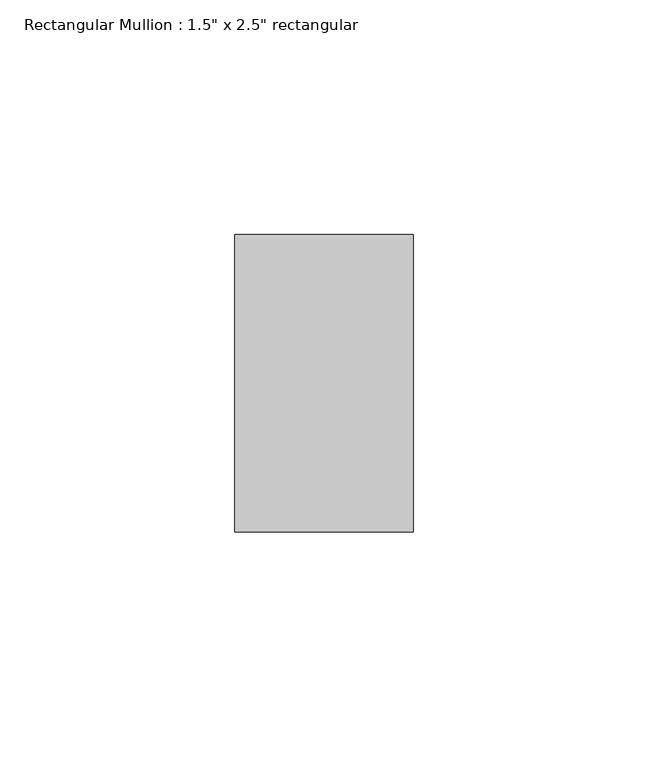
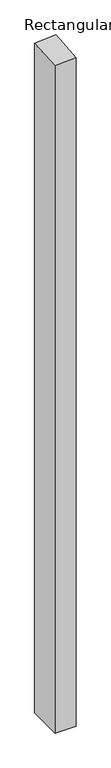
"""IFC4 building model written with IfcOpenShell, lengths in millimetres: member geometry."""

import ifcopenshell
import ifcopenshell.guid

model = None  # the IFC model being written
_history = None  # IfcOwnerHistory: only IFC2X3 demands one
_inside = {}  # id of a spatial element -> (the spatial element, [elements in it])
_under = {}  # id of a project, library or spatial element -> (it, [spatial elements below it])
_declared = {}  # id of a project -> (the project, [libraries it declares])
_typed = {}  # id of a type object -> (the type object, [elements of that type])
_made_of = {}  # id of a material, layer set ... -> (it, [elements and type objects made of it])


def new_model(schema):
    """Start an empty IFC model of exactly this schema.

    Asked for "IFC4X3", IfcOpenShell would pick the latest addendum, in which some entities
    have other attributes; the version numbers below select the first issue.
    IFC2X3 requires an IfcOwnerHistory on every rooted entity: one is made here for all.
    """
    global model, _history
    if schema == "IFC4X3":
        model = ifcopenshell.file(schema_version=(4, 3, 0, 0))
    else:
        model = ifcopenshell.file(schema=schema)
    _inside.clear()
    _under.clear()
    _declared.clear()
    _typed.clear()
    _made_of.clear()
    _history = None
    if model.schema == "IFC2X3":
        org = make("IfcOrganization", Name="unknown")
        user = make(
            "IfcPersonAndOrganization",
            ThePerson=make("IfcPerson", FamilyName="unknown"),
            TheOrganization=org,
        )
        app = make(
            "IfcApplication",
            ApplicationDeveloper=org,
            Version="unknown",
            ApplicationFullName="unknown",
            ApplicationIdentifier="unknown",
        )
        _history = make(
            "IfcOwnerHistory",
            OwningUser=user,
            OwningApplication=app,
            ChangeAction="ADDED",
            CreationDate=0,
        )
    return model


def make(cls, **values):
    """One entity of the class cls with the attributes given. An attribute that is None is left unset."""
    return model.create_entity(
        cls, **{name: value for name, value in values.items() if value is not None}
    )


def rooted(cls, **values):
    """An entity with a GlobalId (a new one), such as an element, a storey or a relation."""
    return make(cls, GlobalId=ifcopenshell.guid.new(), OwnerHistory=_history, **values)


def si_unit(unit_type, name, prefix=None):
    """IfcSIUnit, for example si_unit("LENGTHUNIT", "METRE", prefix="MILLI")."""
    return make("IfcSIUnit", UnitType=unit_type, Prefix=prefix, Name=name)


def assignment(units):
    """IfcUnitAssignment: the units of a project."""
    return None if units is None else make("IfcUnitAssignment", Units=units)


def point(xyz):
    """IfcCartesianPoint."""
    return None if xyz is None else make("IfcCartesianPoint", Coordinates=xyz)


def direction(xyz):
    """IfcDirection."""
    return None if xyz is None else make("IfcDirection", DirectionRatios=xyz)


def frame(location, z_axis=None, x_axis=None):
    """IfcAxis2Placement3D, a coordinate frame: its origin and axes. An axis left out is left unset."""
    return make(
        "IfcAxis2Placement3D",
        Location=point(location),
        Axis=direction(z_axis),
        RefDirection=direction(x_axis),
    )


def origin():
    """The frame at (0, 0, 0) with its axes left unset."""
    return frame((0.0, 0.0, 0.0))


def place(relative_to, where):
    """IfcLocalPlacement: puts the frame where relative to a parent placement (None: the world)."""
    return make(
        "IfcLocalPlacement", PlacementRelTo=relative_to, RelativePlacement=where
    )


def context(
    kind, dimensions, precision=None, world=None, true_north=None, identifier=None
):
    """IfcGeometricRepresentationContext, for example the 3D "Model" context."""
    return make(
        "IfcGeometricRepresentationContext",
        ContextIdentifier=identifier,
        ContextType=kind,
        CoordinateSpaceDimension=dimensions,
        Precision=precision,
        WorldCoordinateSystem=world,
        TrueNorth=true_north,
    )


def project(units=None, contexts=None):
    """IfcProject with its units and contexts."""
    return rooted(
        "IfcProject",
        Name="project",
        RepresentationContexts=contexts,
        UnitsInContext=assignment(units),
    )


def spatial(cls, under=None, at=None, **own):
    """A site, building, storey or space (cls), placed at a placement, below another one or the project."""
    s = rooted(cls, ObjectPlacement=at, **own)
    if under is not None:
        _under.setdefault(under.id(), (under, []))[1].append(s)
    return s


def faces_of(points, faces, orient=None, outer=None):
    """IfcFace entities. A face is a list of loops; a loop is a list of indices into points, from 0.

    orient and outer hold one flag for each loop. By default every Orientation is true, the
    first loop of a face is its IfcFaceOuterBound and the others are IfcFaceBound.
    """
    made = []
    for i, loops in enumerate(faces):
        bounds = []
        for j, loop in enumerate(loops):
            is_outer = j == 0 if outer is None else outer[i][j]
            bounds.append(
                make(
                    "IfcFaceOuterBound" if is_outer else "IfcFaceBound",
                    Bound=make("IfcPolyLoop", Polygon=[points[k] for k in loop]),
                    Orientation=True if orient is None else orient[i][j],
                )
            )
        made.append(make("IfcFace", Bounds=bounds))
    return made


def faceted_brep(points, faces, orient=None, outer=None, voids=None):
    """IfcFacetedBrep: a solid bounded by flat faces; with voids (closed shells), ...WithVoids."""
    shared = [point(p) for p in points]
    hull = make("IfcClosedShell", CfsFaces=faces_of(shared, faces, orient, outer))
    if voids is None:
        return make("IfcFacetedBrep", Outer=hull)
    return make(
        "IfcFacetedBrepWithVoids",
        Outer=hull,
        Voids=[
            make(cls, CfsFaces=faces_of(shared, fs, o, b)) for cls, fs, o, b in voids
        ],
    )


def shape(context_of_items, identifier, shape_type, items):
    """IfcShapeRepresentation: the items that make up one representation, for example the "Body"."""
    return make(
        "IfcShapeRepresentation",
        ContextOfItems=context_of_items,
        RepresentationIdentifier=identifier,
        RepresentationType=shape_type,
        Items=items,
    )


def source(mapping_origin, context_of_items, identifier, shape_type, items):
    """IfcRepresentationMap: a shape defined once, which mapped items show again and again."""
    return make(
        "IfcRepresentationMap",
        MappingOrigin=mapping_origin,
        MappedRepresentation=shape(context_of_items, identifier, shape_type, items),
    )


def transform(
    local_origin,
    x_axis=None,
    y_axis=None,
    z_axis=None,
    scale=None,
    scale2=None,
    scale3=None,
    uniform=True,
):
    """IfcCartesianTransformationOperator3D, or its non-uniform kind. x_axis, y_axis, z_axis: its Axis1, 2, 3."""
    if uniform:
        return make(
            "IfcCartesianTransformationOperator3D",
            Axis1=direction(x_axis),
            Axis2=direction(y_axis),
            LocalOrigin=point(local_origin),
            Scale=scale,
            Axis3=direction(z_axis),
        )
    return make(
        "IfcCartesianTransformationOperator3DnonUniform",
        Axis1=direction(x_axis),
        Axis2=direction(y_axis),
        LocalOrigin=point(local_origin),
        Scale=scale,
        Axis3=direction(z_axis),
        Scale2=scale2,
        Scale3=scale3,
    )


def mapped(mapping_source, mapping_target):
    """IfcMappedItem: shows the shape of a source again, moved by a transform."""
    return make(
        "IfcMappedItem", MappingSource=mapping_source, MappingTarget=mapping_target
    )


def made_of(thing, what):
    """Note that an element or type object is made of a material, layer set ...; save() writes the relation."""
    if what is not None:
        _made_of.setdefault(what.id(), (what, []))[1].append(thing)
    return thing


def element(
    cls,
    number,
    at=None,
    inside=None,
    cuts=None,
    type_object=None,
    material=None,
    context=None,
    identifier="Body",
    shape_type=None,
    held_by="IfcProductDefinitionShape",
    body=None,
    shapes=None,
    **own,
):
    """One element of the class cls, such as IfcWall. Its Tag is "e" and its number.

    at: its placement. inside: the storey or other place that contains it. cuts: it is an
    opening in that element (IfcRelVoidsElement). A single representation is given by context,
    identifier, shape_type and body (its items); several are given by shapes. held_by: the class
    of the entity that holds the representations. save() writes the other relations.
    """
    e = rooted(cls, Tag="e%d" % number, ObjectPlacement=at, **own)
    if body is not None:
        shapes = [shape(context, identifier, shape_type, body)]
    if shapes is not None:
        e.Representation = make(held_by, Representations=shapes)
    if inside is not None:
        _inside.setdefault(inside.id(), (inside, []))[1].append(e)
    if cuts is not None:
        rooted(
            "IfcRelVoidsElement", RelatingBuildingElement=cuts, RelatedOpeningElement=e
        )
    if type_object is not None:
        _typed.setdefault(type_object.id(), (type_object, []))[1].append(e)
    return made_of(e, material)


def aggregate(whole, parts):
    """IfcRelAggregates: a whole, such as a stair, and the parts it consists of."""
    return rooted("IfcRelAggregates", RelatingObject=whole, RelatedObjects=parts)


def save(model, path):
    """Write the relations noted so far, then the file.

    IfcRelAggregates (storeys below a building ...), IfcRelContainedInSpatialStructure (elements
    in a storey), IfcRelDefinesByType, IfcRelAssociatesMaterial and IfcRelDeclares: one each for
    every whole, place, type object, material and project.
    """
    for whole, parts in _under.values():
        aggregate(whole, parts)
    for where, things in _inside.values():
        rooted(
            "IfcRelContainedInSpatialStructure",
            RelatedElements=things,
            RelatingStructure=where,
        )
    for kind, things in _typed.values():
        rooted("IfcRelDefinesByType", RelatedObjects=things, RelatingType=kind)
    for what, things in _made_of.values():
        rooted("IfcRelAssociatesMaterial", RelatedObjects=things, RelatingMaterial=what)
    for by, libraries in _declared.values():
        rooted("IfcRelDeclares", RelatingContext=by, RelatedDefinitions=libraries)
    model.write(path)


def member_a1d7378d(model_context):
    return source(origin(), model_context, "Body", "Brep", [
        faceted_brep([(19.05, 31.75, -1275.8156058), (19.05, -31.75, -1275.8156058), (-19.05, -31.75, -1275.8156058), (-19.05, 31.75, -1275.8156058), (-19.05, 31.75, 0.9165394), (19.05, 31.75, 3.7029501), (-19.05, -31.75, -3.7029501), (19.05, -31.75, -0.9165394)], [[[0, 1, 2, 3]], [[4, 5, 0, 3]], [[6, 4, 3, 2]], [[7, 6, 2, 1]], [[5, 7, 1, 0]], [[5, 4, 6, 7]]]),
    ])


if __name__ == "__main__":
    model = new_model("IFC4")
    model_context = context("Model", 3, world=origin())
    ifc_project = project(units=[si_unit("LENGTHUNIT", "METRE", prefix="MILLI")], contexts=[model_context])
    site = spatial("IfcSite", under=ifc_project)
    building = spatial("IfcBuilding", under=site)
    placement = place(None, origin())
    member_shape = member_a1d7378d(model_context)
    element("IfcMember", 1, ObjectType="Rectangular Mullion : 1.5\" x 2.5\" rectangular", at=placement, inside=building, context=model_context, shape_type="MappedRepresentation", body=[
        mapped(member_shape, transform((0.0, 0.0, 0.0), x_axis=(1.0, 0.0, 0.0), y_axis=(0.0, 1.0, 0.0), z_axis=(0.0, 0.0, 1.0))),
    ])
    save(model, "model.ifc")
